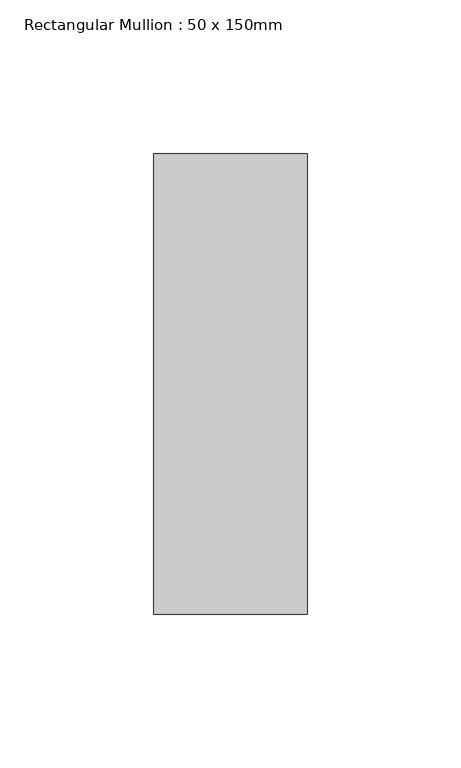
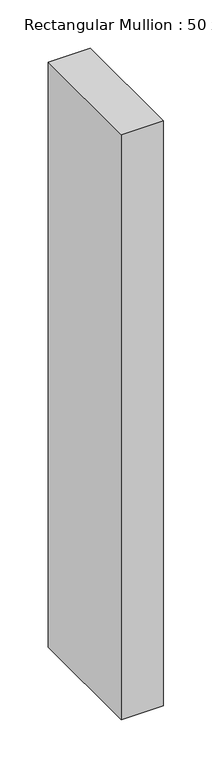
"""IFC4 building model written with IfcOpenShell, lengths in millimetres: member geometry, Rectangular Mullion : 50 x 150mm."""

from ifc_helpers import new_model, si_unit, frame, origin, place, context, project, spatial, polyline, outline, extrude, source, transform, mapped, element, save


def rectangular_mullion_50_x_150mm_23f486f2(model_context):
    return source(origin(), model_context, "Body", "SweptSolid", [
        extrude(outline(polyline([(25.0, 75.0), (25.0, -75.0), (-25.0, -75.0), (-25.0, 75.0), (25.0, 75.0)])), frame((0.0, 0.0, -736.25), z_axis=(0.0, 0.0, 1.0), x_axis=(1.0, 0.0, 0.0)), (0.0, 0.0, 1.0), 736.25),
    ])


if __name__ == "__main__":
    model = new_model("IFC4")
    model_context = context("Model", 3, world=origin())
    ifc_project = project(units=[si_unit("LENGTHUNIT", "METRE", prefix="MILLI")], contexts=[model_context])
    site = spatial("IfcSite", under=ifc_project)
    building = spatial("IfcBuilding", under=site)
    placement = place(None, origin())
    rectangular_mullion_50_x_150mm_shape = rectangular_mullion_50_x_150mm_23f486f2(model_context)
    element("IfcMember", 1, ObjectType="Rectangular Mullion : 50 x 150mm", at=placement, inside=building, context=model_context, shape_type="MappedRepresentation", body=[
        mapped(rectangular_mullion_50_x_150mm_shape, transform((0.0, 0.0, 0.0), x_axis=(1.0, 0.0, 0.0), y_axis=(0.0, 1.0, 0.0), z_axis=(0.0, 0.0, 1.0))),
    ])
    save(model, "model.ifc")
